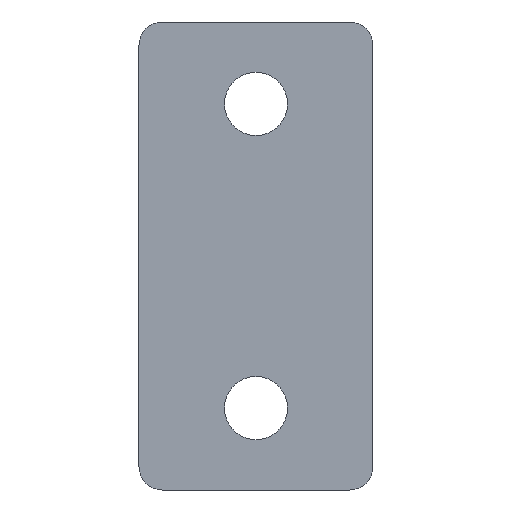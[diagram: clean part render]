
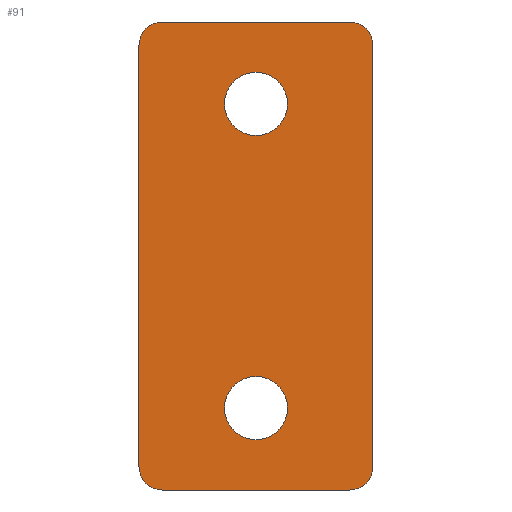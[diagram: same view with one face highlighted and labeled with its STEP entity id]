
A CAD part, left-side view. The second image highlights one B-rep face of the part: STEP entity #91.
In plain terms, the highlighted planar face has unit normal (-1, 0, 0).
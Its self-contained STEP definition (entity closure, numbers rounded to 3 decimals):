
#55=FACE_BOUND('',#123,.T.);
#56=FACE_BOUND('',#124,.T.);
#57=FACE_BOUND('',#125,.T.);
#76=CIRCLE('',#306,6.75);
#77=CIRCLE('',#307,6.75);
#78=CIRCLE('',#308,5.);
#79=CIRCLE('',#309,5.);
#80=CIRCLE('',#310,5.);
#81=CIRCLE('',#311,5.);
#91=ADVANCED_FACE('',(#55,#56,#57),#107,.F.);
#107=PLANE('',#312);
#123=EDGE_LOOP('',(#168));
#124=EDGE_LOOP('',(#169));
#125=EDGE_LOOP('',(#170,#171,#172,#173,#174,#175,#176,#177));
#168=ORIENTED_EDGE('',*,*,#252,.T.);
#169=ORIENTED_EDGE('',*,*,#253,.T.);
#170=ORIENTED_EDGE('',*,*,#240,.F.);
#171=ORIENTED_EDGE('',*,*,#254,.T.);
#172=ORIENTED_EDGE('',*,*,#234,.F.);
#173=ORIENTED_EDGE('',*,*,#255,.T.);
#174=ORIENTED_EDGE('',*,*,#230,.F.);
#175=ORIENTED_EDGE('',*,*,#256,.T.);
#176=ORIENTED_EDGE('',*,*,#244,.F.);
#177=ORIENTED_EDGE('',*,*,#257,.T.);
#206=VERTEX_POINT('',#411);
#207=VERTEX_POINT('',#412);
#210=VERTEX_POINT('',#420);
#211=VERTEX_POINT('',#421);
#216=VERTEX_POINT('',#432);
#217=VERTEX_POINT('',#434);
#220=VERTEX_POINT('',#441);
#221=VERTEX_POINT('',#443);
#224=VERTEX_POINT('',#456);
#225=VERTEX_POINT('',#458);
#230=EDGE_CURVE('',#206,#207,#262,.T.);
#234=EDGE_CURVE('',#210,#211,#266,.T.);
#240=EDGE_CURVE('',#216,#217,#272,.T.);
#244=EDGE_CURVE('',#220,#221,#276,.T.);
#252=EDGE_CURVE('',#224,#224,#76,.T.);
#253=EDGE_CURVE('',#225,#225,#77,.T.);
#254=EDGE_CURVE('',#216,#211,#78,.T.);
#255=EDGE_CURVE('',#210,#207,#79,.T.);
#256=EDGE_CURVE('',#206,#221,#80,.T.);
#257=EDGE_CURVE('',#220,#217,#81,.T.);
#262=LINE('',#410,#278);
#266=LINE('',#419,#282);
#272=LINE('',#433,#288);
#276=LINE('',#442,#292);
#278=VECTOR('',#329,1.);
#282=VECTOR('',#335,1.);
#288=VECTOR('',#343,1.);
#292=VECTOR('',#349,1.);
#306=AXIS2_PLACEMENT_3D('',#455,#367,#368);
#307=AXIS2_PLACEMENT_3D('',#457,#369,#370);
#308=AXIS2_PLACEMENT_3D('',#459,#371,#372);
#309=AXIS2_PLACEMENT_3D('',#460,#373,#374);
#310=AXIS2_PLACEMENT_3D('',#461,#375,#376);
#311=AXIS2_PLACEMENT_3D('',#462,#377,#378);
#312=AXIS2_PLACEMENT_3D('',#463,#379,#380);
#329=DIRECTION('',(0.,0.,-1.));
#335=DIRECTION('',(0.,1.,0.));
#343=DIRECTION('',(0.,0.,1.));
#349=DIRECTION('',(0.,-1.,0.));
#367=DIRECTION('',(1.,0.,0.));
#368=DIRECTION('',(0.,0.,-1.));
#369=DIRECTION('',(1.,0.,0.));
#370=DIRECTION('',(0.,0.,-1.));
#371=DIRECTION('',(-1.,0.,0.));
#372=DIRECTION('',(0.,0.,-1.));
#373=DIRECTION('',(-1.,0.,0.));
#374=DIRECTION('',(0.,0.,-1.));
#375=DIRECTION('',(-1.,0.,0.));
#376=DIRECTION('',(0.,0.,-1.));
#377=DIRECTION('',(-1.,0.,0.));
#378=DIRECTION('',(0.,0.,-1.));
#379=DIRECTION('',(1.,0.,0.));
#380=DIRECTION('',(0.,0.,-1.));
#410=CARTESIAN_POINT('',(0.,0.,100.));
#411=CARTESIAN_POINT('',(0.,0.,95.));
#412=CARTESIAN_POINT('',(0.,0.,5.));
#419=CARTESIAN_POINT('',(0.,0.,0.));
#420=CARTESIAN_POINT('',(0.,5.,0.));
#421=CARTESIAN_POINT('',(0.,45.,0.));
#432=CARTESIAN_POINT('',(0.,50.,5.));
#433=CARTESIAN_POINT('',(0.,50.,0.));
#434=CARTESIAN_POINT('',(0.,50.,95.));
#441=CARTESIAN_POINT('',(0.,45.,100.));
#442=CARTESIAN_POINT('',(0.,50.,100.));
#443=CARTESIAN_POINT('',(0.,5.,100.));
#455=CARTESIAN_POINT('',(0.,25.,17.5));
#456=CARTESIAN_POINT('',(0.,25.,10.75));
#457=CARTESIAN_POINT('',(0.,25.,82.5));
#458=CARTESIAN_POINT('',(0.,25.,75.75));
#459=CARTESIAN_POINT('',(0.,45.,5.));
#460=CARTESIAN_POINT('',(0.,5.,5.));
#461=CARTESIAN_POINT('',(0.,5.,95.));
#462=CARTESIAN_POINT('',(0.,45.,95.));
#463=CARTESIAN_POINT('',(0.,0.,0.));
